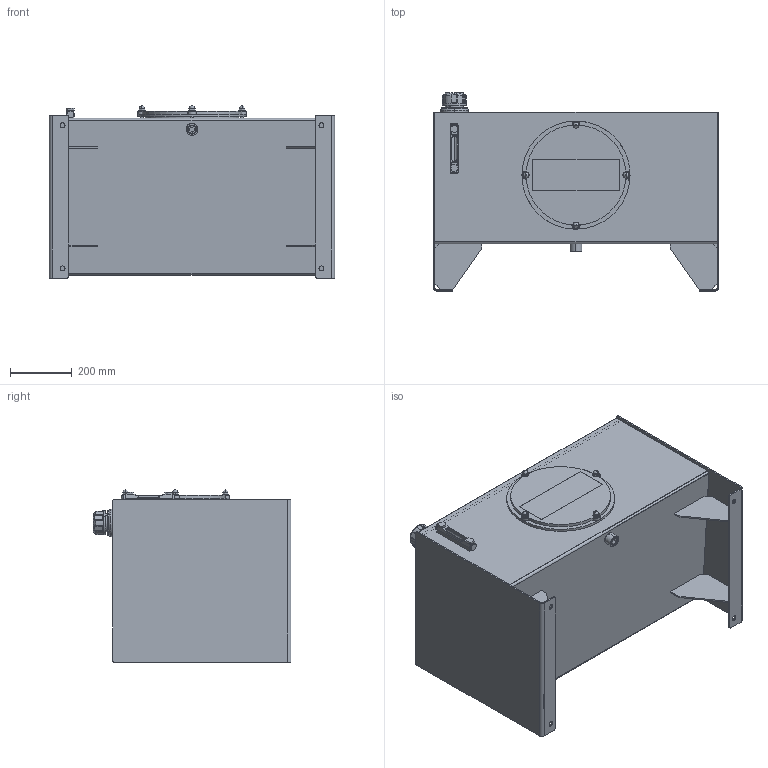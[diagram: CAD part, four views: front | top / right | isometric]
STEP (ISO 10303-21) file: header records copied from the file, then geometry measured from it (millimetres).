
FILE_DESCRIPTION (( 'STEP AP214' ), '1' );
FILE_NAME ('RDIN040-AFA.STEP', '2018-07-19T14:54:49', ( 'Windows User' ), ( '' ), 'SwSTEP 2.0', 'SolidWorks 2017', '' );
FILE_SCHEMA (( 'AUTOMOTIVE_DESIGN' ));
Length unit declared in the file: inch
Products named in the file (22): FB-S-W; WFZM010; RHJ-PLUG-200; Weld Riser; RDIN040-AFA-BODY_RJIC020-BODY; BHS8100-15350; PLLG-05T; RDIN040-AFA-GUSSET1; FB-F008_FB-F-008; REC-M350K; RDIN040-AFA-LEND; S12; FB-H008W; RDIN040-AFA; 8162-008-2_4534K45; RHJ-PLUG-016; RDIN040-AFA-REND; RDIN040-AFA-GUSSET2; FB-C-H_FB-H008W; RDIN040-AFA-TOP; QSTSBUR00080008; REC-M350C-4
Assembly tree (30 placements, depth 3):
  RHJ-PLUG-200
  RDIN040-AFA
    RDIN040-AFA-BODY_RJIC020-BODY
    RDIN040-AFA-LEND
    RDIN040-AFA-REND
    RDIN040-AFA-TOP
    Weld Riser
    FB-H008W
      FB-F008_FB-F-008
      FB-S-W
      FB-C-H_FB-H008W
    BHS8100-15350  x4
    PLLG-05T
    REC-M350K
      REC-M350C-4
      WFZM010  x4
    S12
    8162-008-2_4534K45
    RDIN040-AFA-GUSSET1  x2
    RDIN040-AFA-GUSSET2  x2
    QSTSBUR00080008  x4
  RHJ-PLUG-016
Bounding box: 923.91 x 640.97 x 557.77 mm (x, y, z)
Volume: 12641488.2 mm3; surface area: 5243818.4 mm2
Topology: 35 solids, 35 shells, 1062 faces, 2484 edges, 1490 vertices
Faces by surface type: plane 377, cylinder 359, torus 102, bspline 88, cone 88, sphere 48
Entity records: 33361 total; most frequent: CARTESIAN_POINT 9382, DIRECTION 4906, ORIENTED_EDGE 4524, EDGE_CURVE 2262, AXIS2_PLACEMENT_3D 1964, VERTEX_POINT 1360, EDGE_LOOP 1092, CIRCLE 1048
